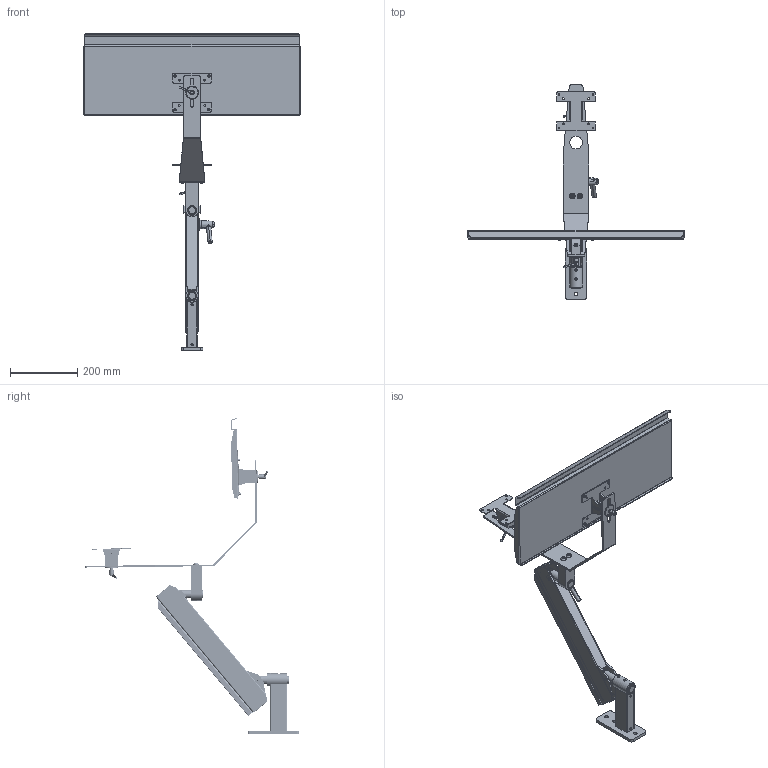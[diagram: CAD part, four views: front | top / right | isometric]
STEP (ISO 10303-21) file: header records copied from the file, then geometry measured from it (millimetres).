
FILE_DESCRIPTION (( 'STEP AP203' ), '1' );
FILE_NAME ('70-8646-00 REV AA, IND. FLEX 360 WORKSTATION, 18-43 LB - UP.STEP', '2025-09-30T23:06:17', ( '' ), ( '' ), 'SwSTEP 2.0', 'SolidWorks 2025', '' );
FILE_SCHEMA (( 'CONFIG_CONTROL_DESIGN' ));
Length unit declared in the file: inch
Products named in the file (61): 11-0650-00 REV AA, BRAKE HANDLE ASSEMBLY; 70-0072-00 REV AA, EXTENSION ARM; 019-004_019-004; 006-004-00_006-004-00; 71-0072-RX REV AA, EXTENSION ARM, RAW; 011-033-00; 71-0037-RX REV AA, PIVOT, THREADED; 71-1032-RX REV AA, SPRING ROD, 13.5in FLEX; 42-0060-00 REV AA, VESA SUB ASSEMBLY, INT. WORKSTATION; 007-036-00, SHSS, 1''4-28, .25L_007-036-00; 71-0070-RX REV AA, AXLE PIN, SHORT; 71-0028-RX REV AA, TAB, MOUNT_MACHINE; 71-1300-RX REV AA, HOUSING, 13.5in FLEX; 005-084-00, BOLT, 1''4-20x2.75; 016-070-00, BEARING, PLASTIC, .5ID x .625 OD x .75; 71-0030-RX REV AA, KNUCKLE, LOAD_MACHINE; 11-0028-RX REV AA, PLASTIC DISC, VESA; 11-0406-BLKX REV AA, KEYBOARD TRAY, 25x8, BLACK; 71-1301-BLKX REV AA, FLEX HOUSING, 13.5in, BLACK_Weld; 71-0040-RX REV AA, BRAKE BLOCK, WIDE_MACHINE; 007-017-00, SHSS, 1''4-20, .25L_DEFAULT; 70-0095-00 REV AA, STUD MOUNT, 6in EXT; 71-0217-RX REV AA, PLATE, NARROW WALL MOUNT_Laser; 70-1343-00 REV AA, FLEX SECTION, 13.5in, 18-43 LB_Angle Up; 006-002-00_006-002-00; 010-012-00, RETAINING RING, EXTERNAL, .875in SHAFT; 70-0080-00 REV AA, INTEGRATED WORKSTATION_TRAY HORIZONTAL; 11-0601-99 REV AA, CONICAL KNOB, BRAKE ASSEMBLY; 016-012-00, OILITE PLUS BEARING, .876 IDx1.0 OD x 1.0; 71-0038-RX REV AA, PIVOT, KNUCKLE, ELECTROLESS NICKEL; 71-0031-RX REV AA, KNUCKLE, MOUNT_MACHINE; 11-0602-RX REV AA, HANDLE, BRAKE ASSEMBLY; 004-144-00; 71-0091-RX REV AA, HOUSING, WALL MOUNT, 6in EXTENSION; 002-306-00, BHSCS, 3''8-16 x .625; 71-0071-RX REV AA, AXLE PIN, LONG; 010-011-00, RETAINING RING, EXT, .250 SHAFT_010-011-00; 11-0027-RX REV AA, PLASTIC DISC, BRAKE ASSEMBLY_MACHINE; 41-0063-RX REV AA, PIN, TILT, VESA; 71-1051-RX REV AA, SPRING BLOCK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
Assembly tree (107 placements, depth 5):
  70-8646-00 REV AA, IND. FLEX 360 WORKSTATION, 18-43 LB - UP
    70-0095-00 REV AA, STUD MOUNT, 6in EXT
      71-0217-RX REV AA, PLATE, NARROW WALL MOUNT_Laser
      71-0091-RX REV AA, HOUSING, WALL MOUNT, 6in EXTENSION
      71-2113-RX REV AA, HOUSING, BEARING, TALL, 1.5OD_MACHINE
      016-007-00, OILITE PLUS BEARING, 0.876 id x 1.002 od x 0.75 lg
      016-008-00, OILITE PLUS BEARING, 0.876 id x 1.002 od x 1.25 lg
      007-036-00, SHSS, 1''4-28, .25L_007-036-00
    70-1343-00 REV AA, FLEX SECTION, 13.5in, 18-43 LB_Angle Up
      71-0031-RX REV AA, KNUCKLE, MOUNT_MACHINE
      71-1032-RX REV AA, SPRING ROD, 13.5in FLEX
      71-0030-RX REV AA, KNUCKLE, LOAD_MACHINE
      71-0038-RX REV AA, PIVOT, KNUCKLE, ELECTROLESS NICKEL
      71-1033-RX REV AA, BOLT, ADJUSTING, 10.9
      71-0037-RX REV AA, PIVOT, THREADED
      71-0040-RX REV AA, BRAKE BLOCK, WIDE_MACHINE
      71-1051-RX REV AA, SPRING BLOCK
      71-1301-BLKX REV AA, FLEX HOUSING, 13.5in, BLACK_Weld
        71-1300-RX REV AA, HOUSING, 13.5in FLEX
        71-0029-RX REV AA, TAB, LOAD  x2
        71-0028-RX REV AA, TAB, MOUNT_MACHINE  x2
      71-0070-RX REV AA, AXLE PIN, SHORT
      71-0071-RX REV AA, AXLE PIN, LONG
      71-0972-99 REV AA, END CAP, FLEX  x2
      11-0027-RX REV AA, PLASTIC DISC, BRAKE ASSEMBLY_MACHINE
      11-0650-00 REV AA, BRAKE HANDLE ASSEMBLY
        11-0601-99 REV AA, CONICAL KNOB, BRAKE ASSEMBLY
        11-0602-RX REV AA, HANDLE, BRAKE ASSEMBLY
        11-0027-RX REV AA, PLASTIC DISC, BRAKE ASSEMBLY_MACHINE
        005-084-00, BOLT, 1''4-20x2.75
      006-004-00_006-004-00  x2
      002-041-00_002-041-00  x2
      010-012-00, RETAINING RING, EXTERNAL, .875in SHAFT  x2
      010-011-00, RETAINING RING, EXT, .250 SHAFT_010-011-00  x4
      011-033-00
      004-050-00, WASHER, FIBER, .032 THK, .265ID  x8
      011-020-00 REV AA, PIN, KNURLED, 1.0LG x .25OD  x2
      004-144-00  x3
      006-059-00
      013-036-00, SPRING, GREEN, 1x8_ISO425203
      016-070-00, BEARING, PLASTIC, .5ID x .625 OD x .75  x2
    70-0080-00 REV AA, INTEGRATED WORKSTATION_TRAY HORIZONTAL
      11-0405-BLKX REV AA, BRACKET, INTEGRATED WORKSTATION, BLACK
      42-0060-00 REV AA, VESA SUB ASSEMBLY, INT. WORKSTATION
        41-0060-ANX REV AA, BODY, VESA, INT. WORKSTATION, BLACK
          41-0060-RX REV AA, BODY, VESA, INT. WORKSTATION
        41-0063-RX REV AA, PIN, TILT, VESA
        11-0062-BLKX REV AA, BRACKET, VESA, SHEETMETAL, BLACK
        11-0027-RX REV AA, PLASTIC DISC, BRAKE ASSEMBLY_MACHINE
        025-064-00, LOCK LEVER, QUARTER20 x .390
        016-012-00, OILITE PLUS BEARING, .876 IDx1.0 OD x 1.0
        007-034-00, SHSS, .375-24, .25L_007-034-00
        11-0028-RX REV AA, PLASTIC DISC, VESA  x2
        002-088-00, FHSCS 10-32 x .5L, BO_002-088-00  x4
      11-0406-BLKX REV AA, KEYBOARD TRAY, 25x8, BLACK
      70-0072-00 REV AA, EXTENSION ARM
        71-0072-RX REV AA, EXTENSION ARM, RAW
        016-008-00, OILITE PLUS BEARING, 0.876 id x 1.002 od x 1.25 lg
        007-017-00, SHSS, 1''4-20, .25L_DEFAULT
      002-306-00, BHSCS, 3''8-16 x .625  x2
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Bounding box: 641.2 x 635.22 x 940.15 mm (x, y, z)
Volume: 1590158.7 mm3; surface area: 1081693 mm2
Topology: 104 solids, 104 shells, 3313 faces, 8111 edges, 5014 vertices
Faces by surface type: cylinder 1491, plane 888, cone 708, torus 129, bspline 87, sphere 10
Entity records: 100605 total; most frequent: CARTESIAN_POINT 55057, ORIENTED_EDGE 7992, DIRECTION 7812, EDGE_CURVE 3996, AXIS2_PLACEMENT_3D 2993, VERTEX_POINT 2470, VECTOR 1826, LINE 1826
